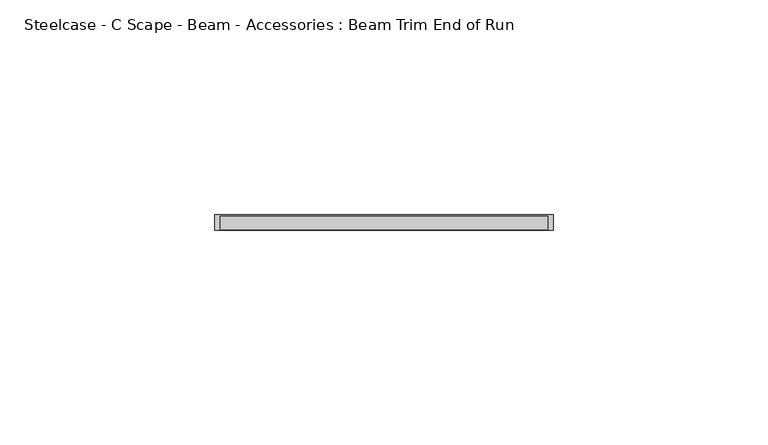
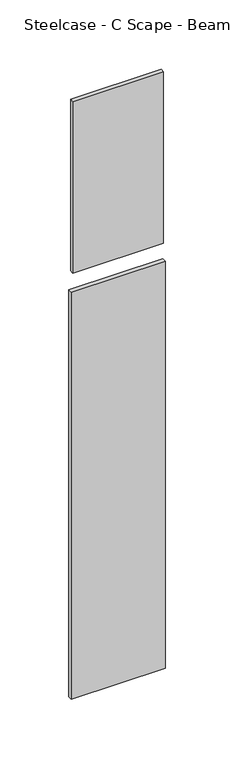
"""IFC4 building model written with IfcOpenShell, lengths in millimetres: furniture geometry, Steelcase - C Scape - Beam - Accessories : Beam Trim End of Run."""

import ifcopenshell
import ifcopenshell.guid

model = None  # the IFC model being written
_history = None  # IfcOwnerHistory: only IFC2X3 demands one
_inside = {}  # id of a spatial element -> (the spatial element, [elements in it])
_under = {}  # id of a project, library or spatial element -> (it, [spatial elements below it])
_declared = {}  # id of a project -> (the project, [libraries it declares])
_typed = {}  # id of a type object -> (the type object, [elements of that type])
_made_of = {}  # id of a material, layer set ... -> (it, [elements and type objects made of it])


def new_model(schema):
    """Start an empty IFC model of exactly this schema.

    Asked for "IFC4X3", IfcOpenShell would pick the latest addendum, in which some entities
    have other attributes; the version numbers below select the first issue.
    IFC2X3 requires an IfcOwnerHistory on every rooted entity: one is made here for all.
    """
    global model, _history
    if schema == "IFC4X3":
        model = ifcopenshell.file(schema_version=(4, 3, 0, 0))
    else:
        model = ifcopenshell.file(schema=schema)
    _inside.clear()
    _under.clear()
    _declared.clear()
    _typed.clear()
    _made_of.clear()
    _history = None
    if model.schema == "IFC2X3":
        org = make("IfcOrganization", Name="unknown")
        user = make(
            "IfcPersonAndOrganization",
            ThePerson=make("IfcPerson", FamilyName="unknown"),
            TheOrganization=org,
        )
        app = make(
            "IfcApplication",
            ApplicationDeveloper=org,
            Version="unknown",
            ApplicationFullName="unknown",
            ApplicationIdentifier="unknown",
        )
        _history = make(
            "IfcOwnerHistory",
            OwningUser=user,
            OwningApplication=app,
            ChangeAction="ADDED",
            CreationDate=0,
        )
    return model


def make(cls, **values):
    """One entity of the class cls with the attributes given. An attribute that is None is left unset."""
    return model.create_entity(
        cls, **{name: value for name, value in values.items() if value is not None}
    )


def rooted(cls, **values):
    """An entity with a GlobalId (a new one), such as an element, a storey or a relation."""
    return make(cls, GlobalId=ifcopenshell.guid.new(), OwnerHistory=_history, **values)


def si_unit(unit_type, name, prefix=None):
    """IfcSIUnit, for example si_unit("LENGTHUNIT", "METRE", prefix="MILLI")."""
    return make("IfcSIUnit", UnitType=unit_type, Prefix=prefix, Name=name)


def assignment(units):
    """IfcUnitAssignment: the units of a project."""
    return None if units is None else make("IfcUnitAssignment", Units=units)


def point(xyz):
    """IfcCartesianPoint."""
    return None if xyz is None else make("IfcCartesianPoint", Coordinates=xyz)


def direction(xyz):
    """IfcDirection."""
    return None if xyz is None else make("IfcDirection", DirectionRatios=xyz)


def frame(location, z_axis=None, x_axis=None):
    """IfcAxis2Placement3D, a coordinate frame: its origin and axes. An axis left out is left unset."""
    return make(
        "IfcAxis2Placement3D",
        Location=point(location),
        Axis=direction(z_axis),
        RefDirection=direction(x_axis),
    )


def origin():
    """The frame at (0, 0, 0) with its axes left unset."""
    return frame((0.0, 0.0, 0.0))


def place(relative_to, where):
    """IfcLocalPlacement: puts the frame where relative to a parent placement (None: the world)."""
    return make(
        "IfcLocalPlacement", PlacementRelTo=relative_to, RelativePlacement=where
    )


def context(
    kind, dimensions, precision=None, world=None, true_north=None, identifier=None
):
    """IfcGeometricRepresentationContext, for example the 3D "Model" context."""
    return make(
        "IfcGeometricRepresentationContext",
        ContextIdentifier=identifier,
        ContextType=kind,
        CoordinateSpaceDimension=dimensions,
        Precision=precision,
        WorldCoordinateSystem=world,
        TrueNorth=true_north,
    )


def project(units=None, contexts=None):
    """IfcProject with its units and contexts."""
    return rooted(
        "IfcProject",
        Name="project",
        RepresentationContexts=contexts,
        UnitsInContext=assignment(units),
    )


def spatial(cls, under=None, at=None, **own):
    """A site, building, storey or space (cls), placed at a placement, below another one or the project."""
    s = rooted(cls, ObjectPlacement=at, **own)
    if under is not None:
        _under.setdefault(under.id(), (under, []))[1].append(s)
    return s


def polyline(points):
    """IfcPolyline through the points."""
    return make("IfcPolyline", Points=[point(p) for p in points])


def outline(outer, holes=None, kind="AREA"):
    """IfcArbitraryClosedProfileDef: a profile drawn as a closed curve; with holes, ...WithVoids."""
    if holes is None:
        return make("IfcArbitraryClosedProfileDef", ProfileType=kind, OuterCurve=outer)
    return make(
        "IfcArbitraryProfileDefWithVoids",
        ProfileType=kind,
        OuterCurve=outer,
        InnerCurves=holes,
    )


def extrude(swept, where, along, depth):
    """IfcExtrudedAreaSolid: the profile swept, set in the frame where, extruded along a direction by depth."""
    return make(
        "IfcExtrudedAreaSolid",
        SweptArea=swept,
        Position=where,
        ExtrudedDirection=direction(along),
        Depth=depth,
    )


def shape(context_of_items, identifier, shape_type, items):
    """IfcShapeRepresentation: the items that make up one representation, for example the "Body"."""
    return make(
        "IfcShapeRepresentation",
        ContextOfItems=context_of_items,
        RepresentationIdentifier=identifier,
        RepresentationType=shape_type,
        Items=items,
    )


def source(mapping_origin, context_of_items, identifier, shape_type, items):
    """IfcRepresentationMap: a shape defined once, which mapped items show again and again."""
    return make(
        "IfcRepresentationMap",
        MappingOrigin=mapping_origin,
        MappedRepresentation=shape(context_of_items, identifier, shape_type, items),
    )


def transform(
    local_origin,
    x_axis=None,
    y_axis=None,
    z_axis=None,
    scale=None,
    scale2=None,
    scale3=None,
    uniform=True,
):
    """IfcCartesianTransformationOperator3D, or its non-uniform kind. x_axis, y_axis, z_axis: its Axis1, 2, 3."""
    if uniform:
        return make(
            "IfcCartesianTransformationOperator3D",
            Axis1=direction(x_axis),
            Axis2=direction(y_axis),
            LocalOrigin=point(local_origin),
            Scale=scale,
            Axis3=direction(z_axis),
        )
    return make(
        "IfcCartesianTransformationOperator3DnonUniform",
        Axis1=direction(x_axis),
        Axis2=direction(y_axis),
        LocalOrigin=point(local_origin),
        Scale=scale,
        Axis3=direction(z_axis),
        Scale2=scale2,
        Scale3=scale3,
    )


def mapped(mapping_source, mapping_target):
    """IfcMappedItem: shows the shape of a source again, moved by a transform."""
    return make(
        "IfcMappedItem", MappingSource=mapping_source, MappingTarget=mapping_target
    )


def made_of(thing, what):
    """Note that an element or type object is made of a material, layer set ...; save() writes the relation."""
    if what is not None:
        _made_of.setdefault(what.id(), (what, []))[1].append(thing)
    return thing


def element(
    cls,
    number,
    at=None,
    inside=None,
    cuts=None,
    type_object=None,
    material=None,
    context=None,
    identifier="Body",
    shape_type=None,
    held_by="IfcProductDefinitionShape",
    body=None,
    shapes=None,
    **own,
):
    """One element of the class cls, such as IfcWall. Its Tag is "e" and its number.

    at: its placement. inside: the storey or other place that contains it. cuts: it is an
    opening in that element (IfcRelVoidsElement). A single representation is given by context,
    identifier, shape_type and body (its items); several are given by shapes. held_by: the class
    of the entity that holds the representations. save() writes the other relations.
    """
    e = rooted(cls, Tag="e%d" % number, ObjectPlacement=at, **own)
    if body is not None:
        shapes = [shape(context, identifier, shape_type, body)]
    if shapes is not None:
        e.Representation = make(held_by, Representations=shapes)
    if inside is not None:
        _inside.setdefault(inside.id(), (inside, []))[1].append(e)
    if cuts is not None:
        rooted(
            "IfcRelVoidsElement", RelatingBuildingElement=cuts, RelatedOpeningElement=e
        )
    if type_object is not None:
        _typed.setdefault(type_object.id(), (type_object, []))[1].append(e)
    return made_of(e, material)


def aggregate(whole, parts):
    """IfcRelAggregates: a whole, such as a stair, and the parts it consists of."""
    return rooted("IfcRelAggregates", RelatingObject=whole, RelatedObjects=parts)


def save(model, path):
    """Write the relations noted so far, then the file.

    IfcRelAggregates (storeys below a building ...), IfcRelContainedInSpatialStructure (elements
    in a storey), IfcRelDefinesByType, IfcRelAssociatesMaterial and IfcRelDeclares: one each for
    every whole, place, type object, material and project.
    """
    for whole, parts in _under.values():
        aggregate(whole, parts)
    for where, things in _inside.values():
        rooted(
            "IfcRelContainedInSpatialStructure",
            RelatedElements=things,
            RelatingStructure=where,
        )
    for kind, things in _typed.values():
        rooted("IfcRelDefinesByType", RelatedObjects=things, RelatingType=kind)
    for what, things in _made_of.values():
        rooted("IfcRelAssociatesMaterial", RelatedObjects=things, RelatingMaterial=what)
    for by, libraries in _declared.values():
        rooted("IfcRelDeclares", RelatingContext=by, RelatedDefinitions=libraries)
    model.write(path)


def steelcase_c_scape_beam_accessories_beam_trim_end_of_run_c12c5493(model_context):
    return source(origin(), model_context, "Body", "SweptSolid", [
        extrude(outline(polyline([(78.9428558, 0.0), (78.9428558, -3.5823395), (0.0, -3.5823395), (0.0, 0.0), (78.9428558, 0.0)])), frame((0.0, 0.0, 74.9300012), z_axis=(0.0, 0.0, 1.0), x_axis=(1.0, 0.0, 0.0)), (0.0, 0.0, 1.0), 361.9499818),
        extrude(outline(polyline([(77.5714279, -3.5823395), (1.3714279, -3.5823395), (1.3714279, -0.4069519), (77.5714279, -0.4069519), (77.5714279, -3.5823395)])), frame((0.0, 0.0, 453.3899855), z_axis=(0.0, 0.0, 1.0), x_axis=(1.0, 0.0, 0.0)), (0.0, 0.0, 1.0), 152.4),
    ])


if __name__ == "__main__":
    model = new_model("IFC4")
    model_context = context("Model", 3, world=origin())
    ifc_project = project(units=[si_unit("LENGTHUNIT", "METRE", prefix="MILLI")], contexts=[model_context])
    site = spatial("IfcSite", under=ifc_project)
    building = spatial("IfcBuilding", under=site)
    placement = place(None, origin())
    steelcase_c_scape_beam_accessories_beam_trim_end_of_run_shape = steelcase_c_scape_beam_accessories_beam_trim_end_of_run_c12c5493(model_context)
    element("IfcFurniture", 1, ObjectType="Steelcase - C Scape - Beam - Accessories : Beam Trim End of Run", at=placement, inside=building, context=model_context, shape_type="MappedRepresentation", body=[
        mapped(steelcase_c_scape_beam_accessories_beam_trim_end_of_run_shape, transform((0.0, 0.0, 0.0), x_axis=(1.0, 0.0, 0.0), y_axis=(0.0, 1.0, 0.0), z_axis=(0.0, 0.0, 1.0))),
    ])
    save(model, "model.ifc")
